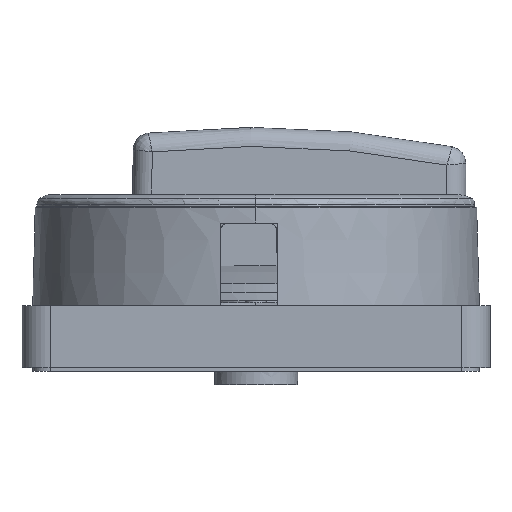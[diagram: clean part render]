
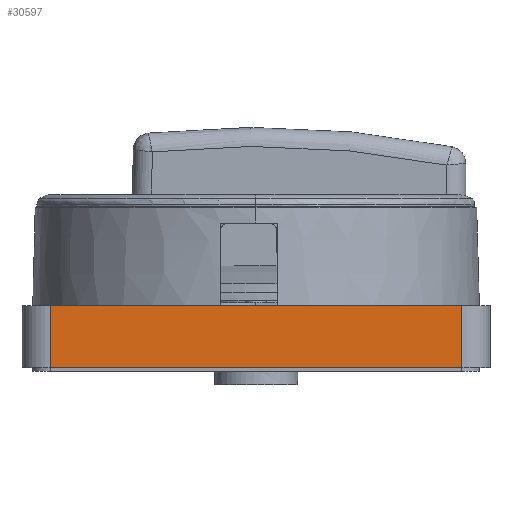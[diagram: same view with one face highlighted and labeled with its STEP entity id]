
A CAD part, front view. The second image highlights one B-rep face of the part: STEP entity #30597.
In plain terms, the highlighted planar face has unit normal (0, -1, 0).
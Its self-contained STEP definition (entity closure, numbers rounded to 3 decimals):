
#26175=DIRECTION('',(-1.,0.,0.));
#26176=VECTOR('',#26175,59.3);
#26177=CARTESIAN_POINT('',(141.338,82.764,50.));
#26178=LINE('',#26177,#26176);
#26586=DIRECTION('',(-1.,0.,0.));
#26587=VECTOR('',#26586,59.3);
#26588=CARTESIAN_POINT('',(141.338,82.764,59.));
#26589=LINE('',#26588,#26587);
#26593=DIRECTION('',(0.,0.,1.));
#26594=VECTOR('',#26593,9.);
#26595=CARTESIAN_POINT('',(141.338,82.764,50.));
#26596=LINE('',#26595,#26594);
#26600=DIRECTION('',(0.,0.,1.));
#26601=VECTOR('',#26600,9.);
#26602=CARTESIAN_POINT('',(82.038,82.764,50.));
#26603=LINE('',#26602,#26601);
#29615=CARTESIAN_POINT('',(141.338,82.764,59.));
#29616=CARTESIAN_POINT('',(82.038,82.764,59.));
#29617=VERTEX_POINT('',#29615);
#29618=VERTEX_POINT('',#29616);
#29637=CARTESIAN_POINT('',(141.338,82.764,50.));
#29638=VERTEX_POINT('',#29637);
#29639=CARTESIAN_POINT('',(82.038,82.764,50.));
#29640=VERTEX_POINT('',#29639);
#30584=CARTESIAN_POINT('',(111.688,82.764,54.5));
#30585=DIRECTION('',(0.,1.,0.));
#30586=DIRECTION('',(1.,0.,0.));
#30587=AXIS2_PLACEMENT_3D('',#30584,#30585,#30586);
#30588=PLANE('',#30587);
#30589=ORIENTED_EDGE('',*,*,#30086,.T.);
#30591=ORIENTED_EDGE('',*,*,#30590,.T.);
#30593=ORIENTED_EDGE('',*,*,#30592,.F.);
#30594=ORIENTED_EDGE('',*,*,#30569,.F.);
#30595=EDGE_LOOP('',(#30589,#30591,#30593,#30594));
#30596=FACE_OUTER_BOUND('',#30595,.F.);
#30597=ADVANCED_FACE('',(#30596),#30588,.F.);
#30086=EDGE_CURVE('',#29638,#29640,#26178,.T.);
#30569=EDGE_CURVE('',#29638,#29617,#26596,.T.);
#30590=EDGE_CURVE('',#29640,#29618,#26603,.T.);
#30592=EDGE_CURVE('',#29617,#29618,#26589,.T.);
